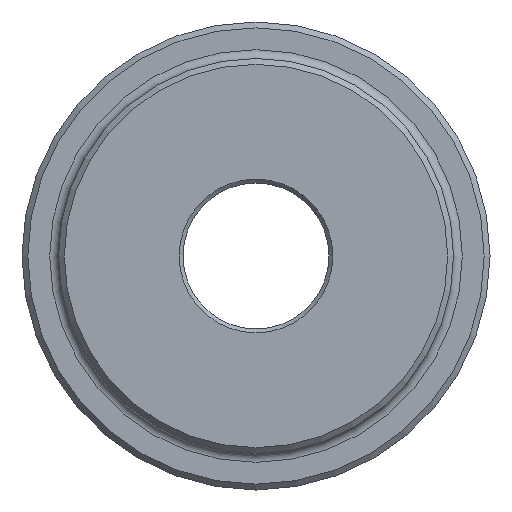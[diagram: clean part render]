
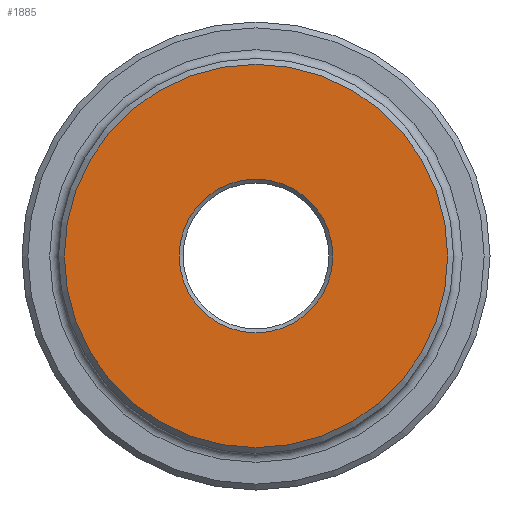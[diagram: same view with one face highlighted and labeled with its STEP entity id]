
A CAD part, left-side view. The second image highlights one B-rep face of the part: STEP entity #1885.
In plain terms, the highlighted planar face has unit normal (-1, 0, 0).
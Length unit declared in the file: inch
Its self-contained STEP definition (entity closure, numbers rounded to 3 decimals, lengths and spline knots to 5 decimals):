
#56 = AXIS2_PLACEMENT_3D ( 'NONE', #238, #1336, #1914 ) ;
#238 = CARTESIAN_POINT ( 'NONE',  ( 0., 0., 0. ) ) ;
#304 = EDGE_CURVE ( 'NONE', #1122, #1122, #1573, .T. ) ;
#405 = CARTESIAN_POINT ( 'NONE',  ( 0., 0., -1.97 ) ) ;
#468 = DIRECTION ( 'NONE',  ( 1., 0., 0. ) ) ;
#476 = VERTEX_POINT ( 'NONE', #405 ) ;
#548 = ORIENTED_EDGE ( 'NONE', *, *, #304, .T. ) ;
#658 = FACE_OUTER_BOUND ( 'NONE', #1660, .T. ) ;
#808 = DIRECTION ( 'NONE',  ( 1., 0., 0. ) ) ;
#861 = EDGE_CURVE ( 'NONE', #476, #476, #1803, .T. ) ;
#971 = EDGE_LOOP ( 'NONE', ( #548 ) ) ;
#1067 = FACE_BOUND ( 'NONE', #971, .T. ) ;
#1122 = VERTEX_POINT ( 'NONE', #1655 ) ;
#1239 = CARTESIAN_POINT ( 'NONE',  ( 0., 0., 0. ) ) ;
#1272 = CARTESIAN_POINT ( 'NONE',  ( 0., 0., 0. ) ) ;
#1336 = DIRECTION ( 'NONE',  ( -1., 0., 0. ) ) ;
#1425 = PLANE ( 'NONE',  #1986 ) ;
#1546 = AXIS2_PLACEMENT_3D ( 'NONE', #1239, #808, #2048 ) ;
#1573 = CIRCLE ( 'NONE', #1546, 0.79025 ) ;
#1655 = CARTESIAN_POINT ( 'NONE',  ( 0., 0., -0.79025 ) ) ;
#1660 = EDGE_LOOP ( 'NONE', ( #2006 ) ) ;
#1785 = DIRECTION ( 'NONE',  ( 0., 0., -1. ) ) ;
#1803 = CIRCLE ( 'NONE', #56, 1.97 ) ;
#1885 = ADVANCED_FACE ( 'NONE', ( #1067, #658 ), #1425, .F. ) ;
#1914 = DIRECTION ( 'NONE',  ( 0., 0., -1. ) ) ;
#1986 = AXIS2_PLACEMENT_3D ( 'NONE', #1272, #468, #1785 ) ;
#2006 = ORIENTED_EDGE ( 'NONE', *, *, #861, .T. ) ;
#2048 = DIRECTION ( 'NONE',  ( 0., 0., -1. ) ) ;
